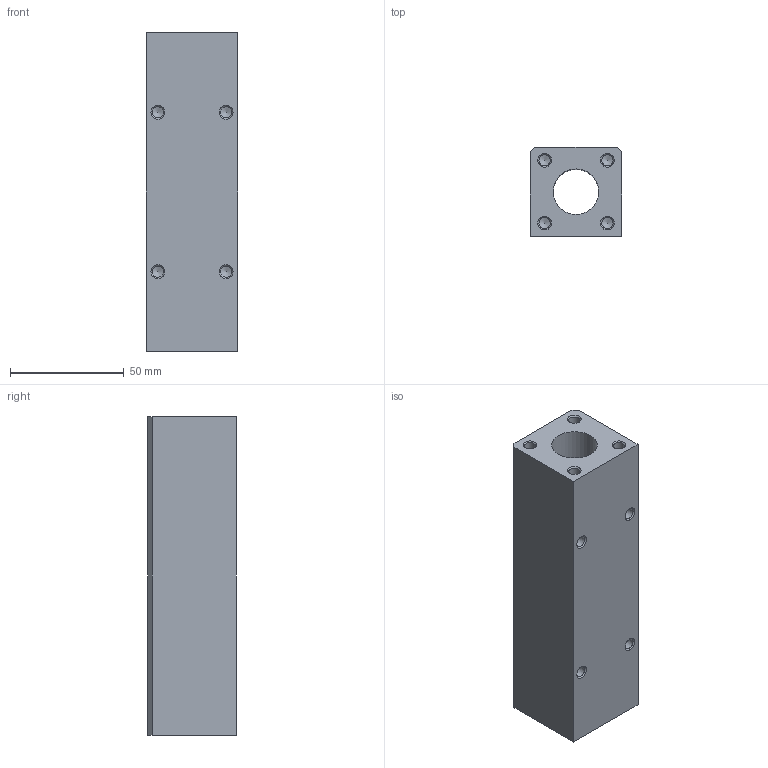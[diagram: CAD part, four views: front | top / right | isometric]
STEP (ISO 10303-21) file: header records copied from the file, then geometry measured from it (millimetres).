
FILE_DESCRIPTION( ( 'STEP AP214' ), '1' );
FILE_NAME( 'U:/Etudes/Top Solid/BIBLIO 3D AVM/STEP/PNEUMATIQUE/GUIDAGES/Accessoires/Paliers/513665_.step', '2005-05-04T12:43:12', ( ' ' ), ( ' ' ), 'XStep 1.0', ' ', ' ' );
FILE_SCHEMA( ( 'automotive_design' ) );
Length unit declared in the file: metre
Products named in the file (1): 1
Bounding box: 40 x 39 x 140 mm (x, y, z)
Volume: 171531.4 mm3; surface area: 34975.1 mm2
Topology: 1 solids, 1 shells, 65 faces, 141 edges, 94 vertices
Faces by surface type: cylinder 25, plane 24, cone 16
Full cylindrical faces by diameter (mm): 4.918 x16, 6.1 x8, 20 x1
Entity records: 1944 total; most frequent: DIRECTION 266, CARTESIAN_POINT 220, ORIENTED_EDGE 152, AXIS2_PLACEMENT_3D 124, EDGE_LOOP 124, FACE_OUTER_BOUND 90, VERTEX_POINT 78, EDGE_CURVE 76
